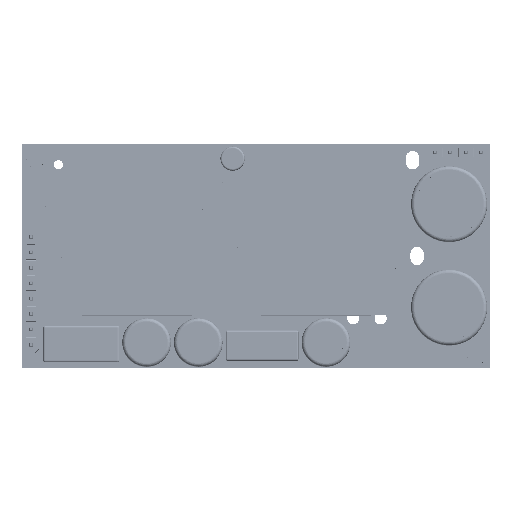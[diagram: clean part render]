
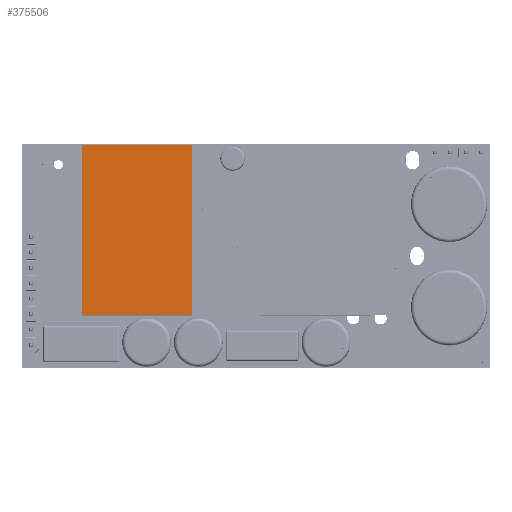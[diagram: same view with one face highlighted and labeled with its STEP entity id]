
A CAD part, top view. The second image highlights one B-rep face of the part: STEP entity #375506.
In plain terms, the highlighted planar face has unit normal (0, 0, 1).
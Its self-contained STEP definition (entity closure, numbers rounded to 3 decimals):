
#375377 = VERTEX_POINT('',#375378);
#375378=CARTESIAN_POINT('',(-9.,14.05,18.355));
#375384 = EDGE_CURVE('',#375377,#375385,#375387,.T.);
#375385 = VERTEX_POINT('',#375386);
#375386=CARTESIAN_POINT('',(9.,14.05,18.355));
#375387 = LINE('',#375388,#375389);
#375388=CARTESIAN_POINT('',(-9.,14.05,18.355));
#375389 = VECTOR('',#375390,1.);
#375390=DIRECTION('',(1.,0.,0.));
#375415 = EDGE_CURVE('',#375385,#375416,#375418,.T.);
#375416 = VERTEX_POINT('',#375417);
#375417=CARTESIAN_POINT('',(9.,-14.05,18.355));
#375418 = LINE('',#375419,#375420);
#375419=CARTESIAN_POINT('',(9.,14.05,18.355));
#375420 = VECTOR('',#375421,1.);
#375421=DIRECTION('',(0.,-1.,0.));
#375446 = EDGE_CURVE('',#375416,#375447,#375449,.T.);
#375447 = VERTEX_POINT('',#375448);
#375448=CARTESIAN_POINT('',(-9.,-14.05,18.355));
#375449 = LINE('',#375450,#375451);
#375450=CARTESIAN_POINT('',(9.,-14.05,18.355));
#375451 = VECTOR('',#375452,1.);
#375452=DIRECTION('',(-1.,0.,0.));
#375477 = EDGE_CURVE('',#375447,#375377,#375478,.T.);
#375478 = LINE('',#375479,#375480);
#375479=CARTESIAN_POINT('',(-9.,-14.05,18.355));
#375480 = VECTOR('',#375481,1.);
#375481=DIRECTION('',(0.,1.,0.));
#375506 = ADVANCED_FACE('',(#375507),#375513,.F.);
#375507 = FACE_BOUND('',#375508,.F.);
#375508 = EDGE_LOOP('',(#375509,#375510,#375511,#375512));
#375509 = ORIENTED_EDGE('',*,*,#375384,.T.);
#375510 = ORIENTED_EDGE('',*,*,#375415,.T.);
#375511 = ORIENTED_EDGE('',*,*,#375446,.T.);
#375512 = ORIENTED_EDGE('',*,*,#375477,.T.);
#375513 = PLANE('',#375514);
#375514=AXIS2_PLACEMENT_3D('',#375515,#375516,#375517);
#375515=CARTESIAN_POINT('',(0.,0.,18.355));
#375516=DIRECTION('',(0.,0.,-1.));
#375517=DIRECTION('',(-1.,0.,0.));
